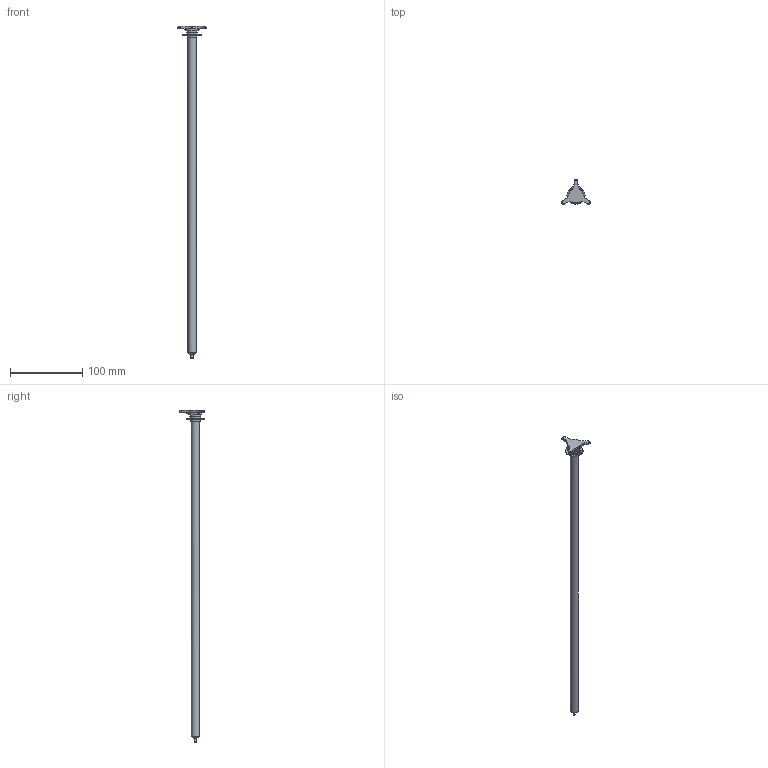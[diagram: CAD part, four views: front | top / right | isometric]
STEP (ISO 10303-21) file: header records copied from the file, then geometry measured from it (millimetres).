
FILE_DESCRIPTION(/* description */ (''),/* implementation_level */ '2;1');
FILE_NAME(/* name */ 'LA-6084-1600-A.stp',/* time_stamp */ '2014-06-03T14:28:17+01:00',/* author */ (''),/* organization */ (''),/* preprocessor_version */ 'ST-DEVELOPER v11',/* originating_system */ 'SIEMENS PLM Software NX 7.5',/* authorisation */ '');
FILE_SCHEMA (('AUTOMOTIVE_DESIGN { 1 0 10303 214 1 1 1 1 }'));
Length unit declared in the file: millimetre
Products named in the file (1): ej13DD85l5ft
Bounding box: 40.73 x 35.61 x 459.3 mm (x, y, z)
Volume: 47834.3 mm3; surface area: 18294 mm2
Topology: 1 solids, 1 shells, 152 faces, 482 edges, 380 vertices
Faces by surface type: plane 70, cylinder 51, cone 29, torus 2
Full cylindrical faces by diameter (mm): 1.7 x1, 3 x1, 11.1 x1, 11.25 x1, 13.05 x1, 13.46 x1, 15 x2, 18 x1, 25 x1
Entity records: 7101 total; most frequent: CARTESIAN_POINT 2037, ORIENTED_EDGE 904, DIRECTION 655, EDGE_CURVE 452, VERTEX_POINT 373, AXIS2_PLACEMENT_3D 274, B_SPLINE_CURVE_WITH_KNOTS 224, EDGE_LOOP 223
